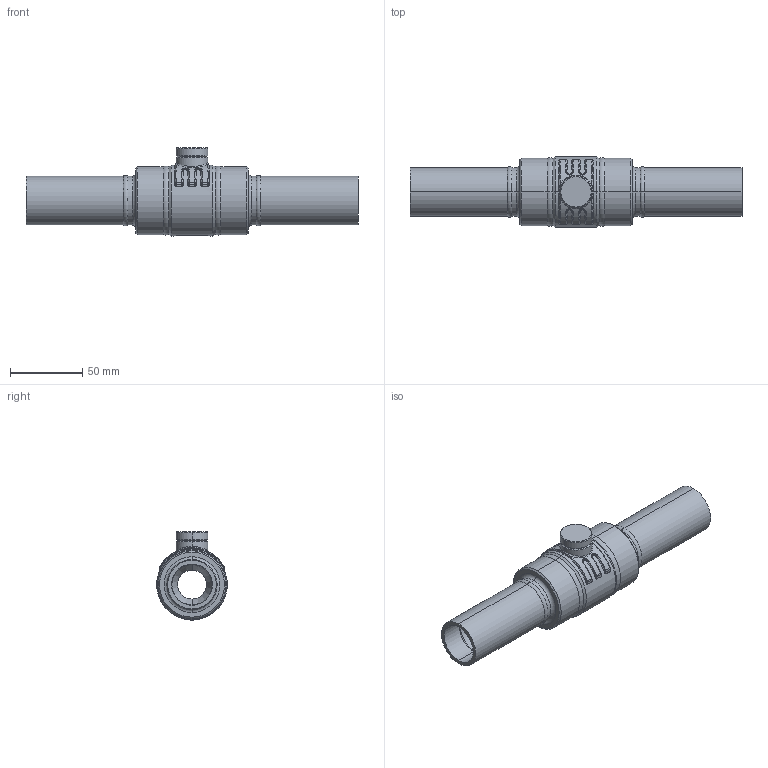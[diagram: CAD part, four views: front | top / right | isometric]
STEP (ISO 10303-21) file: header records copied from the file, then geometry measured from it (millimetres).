
FILE_DESCRIPTION((''),'2;1');
FILE_NAME('KHMO-BH-R-ISKT-025R020P040','2025-02-11T17:00:52',('jeitlers'),('KLINGER'),'CREO PARAMETRIC BY PTC INC, 2023014','CREO PARAMETRIC BY PTC INC, 2023014','');
FILE_SCHEMA(('CONFIG_CONTROL_DESIGN'));
Length unit declared in the file: millimetre
Products named in the file (1): KHMO-BH-R-ISKT-025R020P040
Bounding box: 230 x 49 x 61 mm (x, y, z)
Volume: 150109.1 mm3; surface area: 63011.5 mm2
Topology: 1 solids, 1 shells, 346 faces, 745 edges, 415 vertices
Faces by surface type: cylinder 111, torus 76, plane 63, bspline 48, cone 46, sphere 2
Entity records: 17140 total; most frequent: CARTESIAN_POINT 9776, DIRECTION 1626, ORIENTED_EDGE 1486, EDGE_CURVE 743, AXIS2_PLACEMENT_3D 703, VERTEX_POINT 415, CIRCLE 405, EDGE_LOOP 368
